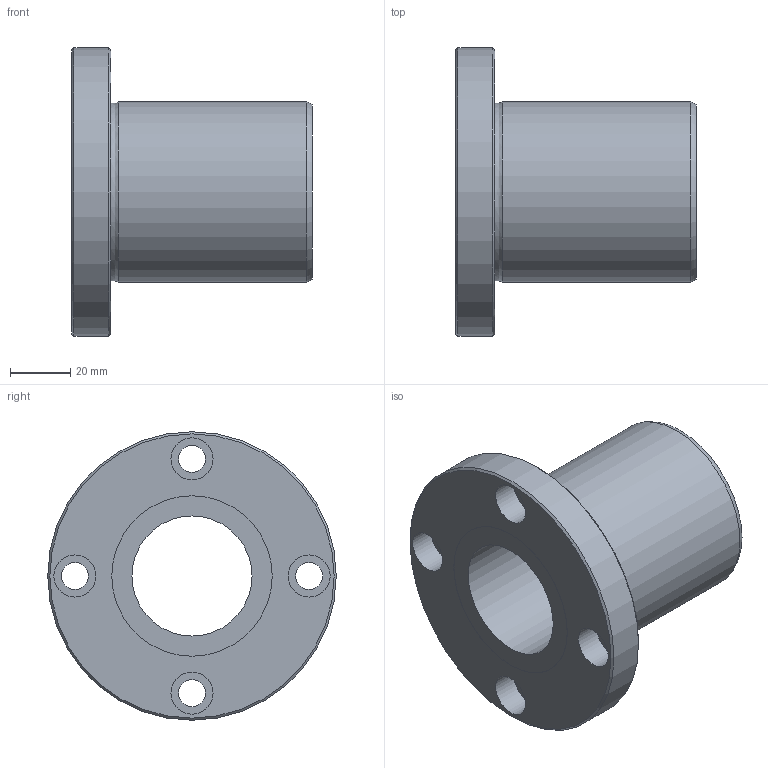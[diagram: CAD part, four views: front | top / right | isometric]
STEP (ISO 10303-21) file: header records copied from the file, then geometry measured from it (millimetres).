
FILE_DESCRIPTION((''),'2;1');
FILE_NAME('D:\製品 (図面)\カタログ用3D\リニアベアリング関連\STEP形式\LF\LF40.stp','2010-06-03T09:14:59',('Tsuchiya'),(''),'Autodesk Inventor 10','Autodesk Inventor 10','');
FILE_SCHEMA(('AUTOMOTIVE_DESIGN { 1 0 10303 214 1 1 1 1 }'));
Length unit declared in the file: millimetre
Products named in the file (1): LF40
Bounding box: 80 x 96 x 96 mm (x, y, z)
Volume: 175884.9 mm3; surface area: 39770.8 mm2
Topology: 1 solids, 1 shells, 26 faces, 47 edges, 30 vertices
Faces by surface type: cylinder 13, plane 9, cone 2, torus 1, bspline 1
Full cylindrical faces by diameter (mm): 9 x4, 14 x4, 40 x1, 53.4 x2, 60 x1, 96 x1
Entity records: 665 total; most frequent: CARTESIAN_POINT 149, DIRECTION 112, ORIENTED_EDGE 60, EDGE_LOOP 60, AXIS2_PLACEMENT_3D 56, FACE_BOUND 34, VERTEX_POINT 30, CIRCLE 30
